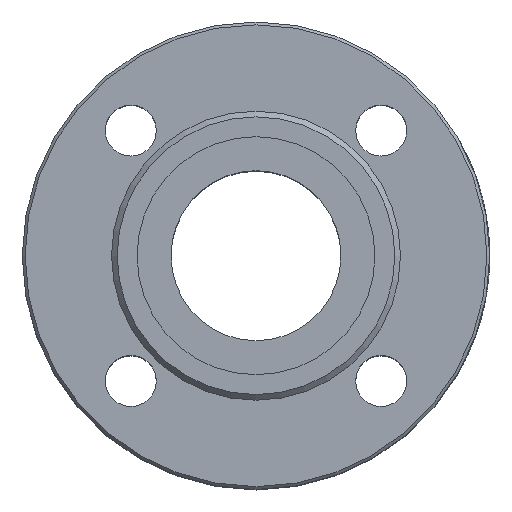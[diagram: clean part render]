
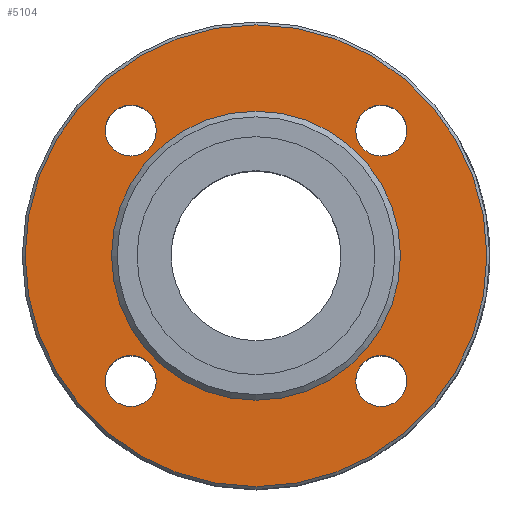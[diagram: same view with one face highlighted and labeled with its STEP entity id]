
A CAD part, top view. The second image highlights one B-rep face of the part: STEP entity #5104.
In plain terms, the highlighted planar face has unit normal (0, 0, 1).
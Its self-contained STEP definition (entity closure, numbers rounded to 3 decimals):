
#422=FACE_BOUND('',#1114,.T.);
#423=FACE_BOUND('',#1115,.T.);
#424=FACE_BOUND('',#1116,.T.);
#425=FACE_BOUND('',#1117,.T.);
#426=FACE_BOUND('',#1118,.T.);
#554=PLANE('',#5513);
#803=FACE_OUTER_BOUND('',#1113,.T.);
#1113=EDGE_LOOP('',(#4342));
#1114=EDGE_LOOP('',(#4343));
#1115=EDGE_LOOP('',(#4344));
#1116=EDGE_LOOP('',(#4345));
#1117=EDGE_LOOP('',(#4346));
#1118=EDGE_LOOP('',(#4347));
#1909=CIRCLE('',#5511,81.5);
#1910=CIRCLE('',#5514,9.);
#1911=CIRCLE('',#5515,9.);
#1912=CIRCLE('',#5516,9.);
#1913=CIRCLE('',#5517,9.);
#1914=CIRCLE('',#5518,51.);
#2391=VERTEX_POINT('',#10908);
#2392=VERTEX_POINT('',#10913);
#2393=VERTEX_POINT('',#10915);
#2394=VERTEX_POINT('',#10917);
#2395=VERTEX_POINT('',#10919);
#2396=VERTEX_POINT('',#10921);
#3051=EDGE_CURVE('',#2391,#2391,#1909,.T.);
#3052=EDGE_CURVE('',#2392,#2392,#1910,.T.);
#3053=EDGE_CURVE('',#2393,#2393,#1911,.T.);
#3054=EDGE_CURVE('',#2394,#2394,#1912,.T.);
#3055=EDGE_CURVE('',#2395,#2395,#1913,.T.);
#3056=EDGE_CURVE('',#2396,#2396,#1914,.T.);
#4342=ORIENTED_EDGE('',*,*,#3051,.T.);
#4343=ORIENTED_EDGE('',*,*,#3052,.F.);
#4344=ORIENTED_EDGE('',*,*,#3053,.F.);
#4345=ORIENTED_EDGE('',*,*,#3054,.F.);
#4346=ORIENTED_EDGE('',*,*,#3055,.F.);
#4347=ORIENTED_EDGE('',*,*,#3056,.F.);
#5104=ADVANCED_FACE('',(#803,#422,#423,#424,#425,#426),#554,.F.);
#5511=AXIS2_PLACEMENT_3D('',#10910,#6585,#6586);
#5513=AXIS2_PLACEMENT_3D('',#10912,#6589,#6590);
#5514=AXIS2_PLACEMENT_3D('',#10914,#6591,#6592);
#5515=AXIS2_PLACEMENT_3D('',#10916,#6593,#6594);
#5516=AXIS2_PLACEMENT_3D('',#10918,#6595,#6596);
#5517=AXIS2_PLACEMENT_3D('',#10920,#6597,#6598);
#5518=AXIS2_PLACEMENT_3D('',#10922,#6599,#6600);
#6585=DIRECTION('center_axis',(0.,0.,1.));
#6586=DIRECTION('ref_axis',(0.,-1.,0.));
#6589=DIRECTION('center_axis',(0.,0.,-1.));
#6590=DIRECTION('ref_axis',(-1.,0.,0.));
#6591=DIRECTION('center_axis',(0.,0.,1.));
#6592=DIRECTION('ref_axis',(-1.,0.,0.));
#6593=DIRECTION('center_axis',(0.,0.,1.));
#6594=DIRECTION('ref_axis',(-1.,0.,0.));
#6595=DIRECTION('center_axis',(0.,0.,1.));
#6596=DIRECTION('ref_axis',(-1.,0.,0.));
#6597=DIRECTION('center_axis',(0.,0.,1.));
#6598=DIRECTION('ref_axis',(-1.,0.,0.));
#6599=DIRECTION('center_axis',(0.,0.,1.));
#6600=DIRECTION('ref_axis',(-1.,0.,0.));
#10908=CARTESIAN_POINT('',(0.,81.5,55.));
#10910=CARTESIAN_POINT('Origin',(0.,0.,55.));
#10912=CARTESIAN_POINT('Origin',(0.,82.5,55.));
#10913=CARTESIAN_POINT('',(-35.194,44.194,55.));
#10914=CARTESIAN_POINT('Origin',(-44.194,44.194,55.));
#10915=CARTESIAN_POINT('',(53.194,-44.194,55.));
#10916=CARTESIAN_POINT('Origin',(44.194,-44.194,55.));
#10917=CARTESIAN_POINT('',(53.194,44.194,55.));
#10918=CARTESIAN_POINT('Origin',(44.194,44.194,55.));
#10919=CARTESIAN_POINT('',(-35.194,-44.194,55.));
#10920=CARTESIAN_POINT('Origin',(-44.194,-44.194,55.));
#10921=CARTESIAN_POINT('',(-51.,0.,55.));
#10922=CARTESIAN_POINT('Origin',(0.,0.,55.));
